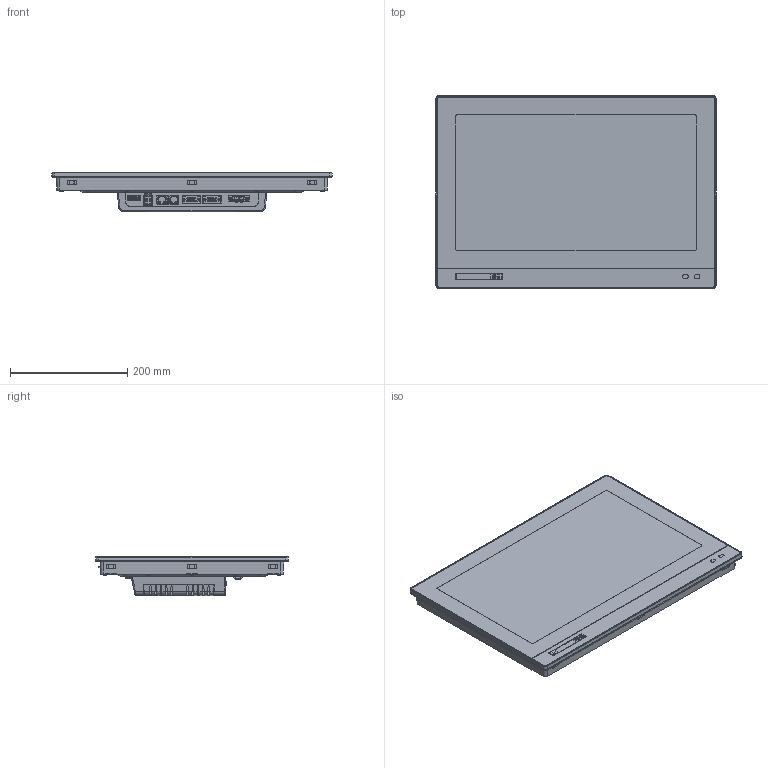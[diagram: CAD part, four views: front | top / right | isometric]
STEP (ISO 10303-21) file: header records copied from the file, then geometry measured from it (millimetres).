
FILE_DESCRIPTION((''),'2;1');
FILE_NAME('3D-TOPRC1900WD','2024-07-18T14:28:17',('Youngmin'),(''),'CREO PARAMETRIC BY PTC INC, 2022284','CREO PARAMETRIC BY PTC INC, 2022284','');
FILE_SCHEMA(('CONFIG_CONTROL_DESIGN'));
Products named in the file (1): 3D-TOPRC1900WD
Bounding box: 477.4 x 328.4 x 67.55 mm (x, y, z)
Volume: 5975016.5 mm3; surface area: 482261.4 mm2
Topology: 1 solids, 36 shells, 4676 faces, 13040 edges, 8492 vertices
Faces by surface type: plane 3087, cylinder 1202, bspline 177, cone 106, sphere 56, torus 28, extrusion 20
Entity records: 170756 total; most frequent: CARTESIAN_POINT 52308, ORIENTED_EDGE 26040, DIRECTION 22518, EDGE_CURVE 13020, VECTOR 9148, LINE 9128, VERTEX_POINT 8492, AXIS2_PLACEMENT_3D 6685
